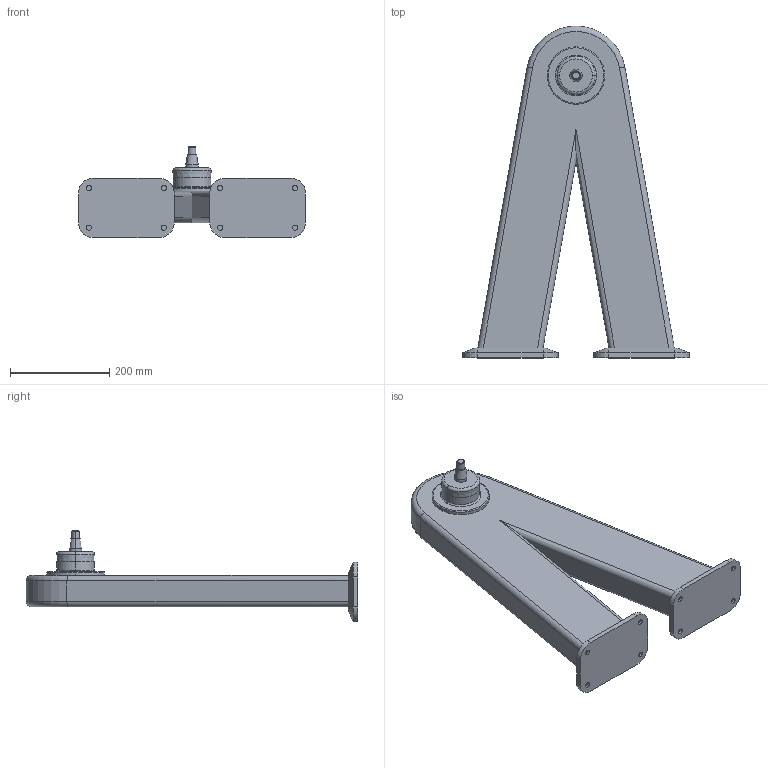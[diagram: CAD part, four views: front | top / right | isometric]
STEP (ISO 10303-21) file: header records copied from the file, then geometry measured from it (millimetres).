
FILE_DESCRIPTION (( 'STEP AP214' ), '1' );
FILE_NAME ('WP850_H570.STEP', '2014-09-08T13:00:38', ( '' ), ( '' ), 'SwSTEP 2.0', 'SolidWorks 2014', '' );
FILE_SCHEMA (( 'AUTOMOTIVE_DESIGN' ));
Length unit declared in the file: millimetre
Products named in the file (1): WP850_H570
Bounding box: 458.04 x 670 x 183.98 mm (x, y, z)
Volume: 10732654.8 mm3; surface area: 530922.3 mm2
Topology: 1 solids, 1 shells, 101 faces, 221 edges, 136 vertices
Faces by surface type: cylinder 41, plane 38, cone 14, torus 8
Entity records: 2795 total; most frequent: DIRECTION 513, CARTESIAN_POINT 489, ORIENTED_EDGE 442, EDGE_CURVE 221, AXIS2_PLACEMENT_3D 200, VERTEX_POINT 136, EDGE_LOOP 115, LINE 113
